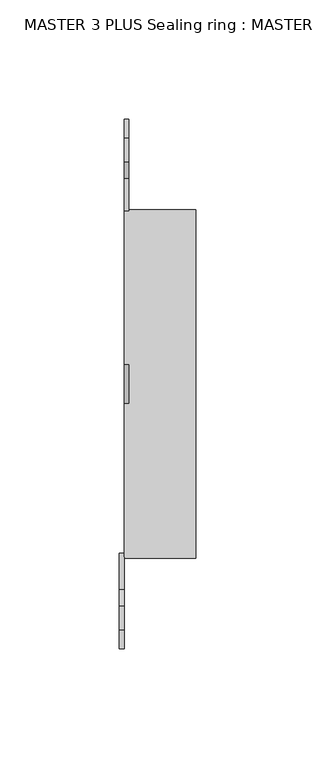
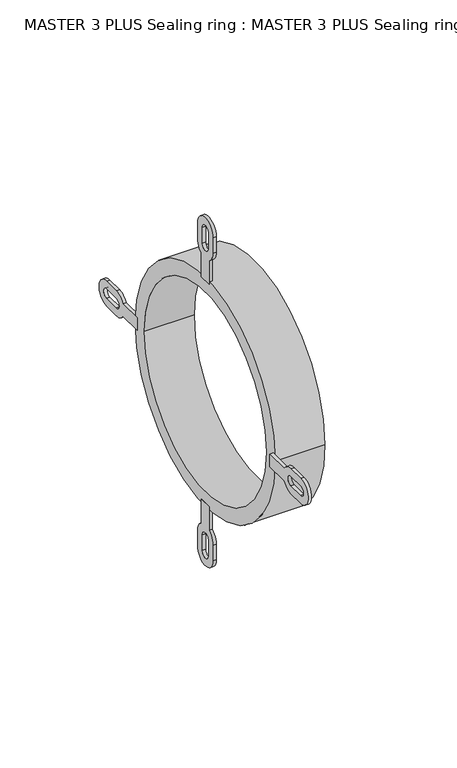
"""IFC4 building model written with IfcOpenShell, lengths in millimetres: pipe fitting geometry, MASTER 3 PLUS Sealing ring : MASTER 3 PLUS Sealing ring."""

from ifc_helpers import new_model, si_unit, point, frame, frame_2d, origin, origin_2d, place, context, project, spatial, polyline, circle_curve, trimmed, segment, composite_curve, outline, extrude, source, transform, mapped, element, save


def master_3_plus_sealing_ring_master_3_plus_sealing_ring_c2c44dfe(model_context):
    return source(origin(), model_context, "Body", "SweptSolid", [
        extrude(outline(composite_curve([segment(polyline([(-3.9877984, 71.0), (-3.9877984, 86.0647665)]), True, "CONTINUOUS"), segment(trimmed(circle_curve(frame_2d((0.0, 93.0)), 8.0), [point((-3.9877984, 86.0647665))], [point((-8.0, 93.0))], False, "CARTESIAN"), True, "CONTINUOUS"), segment(polyline([(-8.0, 93.0), (-8.0, 103.0)]), True, "CONTINUOUS"), segment(trimmed(circle_curve(frame_2d((0.0, 103.0)), 8.0), [point((-8.0, 103.0))], [point((8.0, 103.0))], False, "CARTESIAN"), True, "CONTINUOUS"), segment(polyline([(8.0, 103.0), (8.0, 93.0)]), True, "CONTINUOUS"), segment(trimmed(circle_curve(frame_2d((0.0, 93.0)), 8.0), [point((8.0, 93.0))], [point((3.9877984, 86.0647665))], False, "CARTESIAN"), True, "CONTINUOUS"), segment(polyline([(3.9877984, 86.0647665), (3.9877984, 71.0), (-3.9877984, 71.0)]), True, "CONTINUOUS")], self_intersect=False), holes=[composite_curve([segment(trimmed(circle_curve(frame_2d((0.0, 93.0)), 3.0), [point((-3.0, 93.0))], [point((3.0, 93.0))], True, "CARTESIAN"), True, "CONTINUOUS"), segment(polyline([(3.0, 93.0), (3.0, 103.0)]), True, "CONTINUOUS"), segment(trimmed(circle_curve(frame_2d((0.0, 103.0)), 3.0), [point((3.0, 103.0))], [point((-3.0, 103.0))], True, "CARTESIAN"), True, "CONTINUOUS"), segment(polyline([(-3.0, 103.0), (-3.0, 93.0)]), True, "CONTINUOUS")], self_intersect=False)]), frame((0.0, 0.0, 0.0), z_axis=(1.0, 0.0, 0.0), x_axis=(0.0, 1.0, 0.0)), (0.0, 0.0, 1.0), 2.0),
        extrude(outline(composite_curve([segment(polyline([(-3.9877984, -71.0), (3.9877984, -71.0), (3.9877984, -86.0647665)]), True, "CONTINUOUS"), segment(trimmed(circle_curve(frame_2d((0.0, -93.0)), 8.0), [point((3.9877984, -86.0647665))], [point((8.0, -93.0))], False, "CARTESIAN"), True, "CONTINUOUS"), segment(polyline([(8.0, -93.0), (8.0, -103.0)]), True, "CONTINUOUS"), segment(trimmed(circle_curve(frame_2d((0.0, -103.0)), 8.0), [point((8.0, -103.0))], [point((-8.0, -103.0))], False, "CARTESIAN"), True, "CONTINUOUS"), segment(polyline([(-8.0, -103.0), (-8.0, -93.0)]), True, "CONTINUOUS"), segment(trimmed(circle_curve(frame_2d((0.0, -93.0)), 8.0), [point((-8.0, -93.0))], [point((-3.9877984, -86.0647665))], False, "CARTESIAN"), True, "CONTINUOUS"), segment(polyline([(-3.9877984, -86.0647665), (-3.9877984, -71.0)]), True, "CONTINUOUS")], self_intersect=False), holes=[composite_curve([segment(polyline([(-3.0, -93.0), (-3.0, -103.0)]), True, "CONTINUOUS"), segment(trimmed(circle_curve(frame_2d((0.0, -103.0)), 3.0), [point((-3.0, -103.0))], [point((3.0, -103.0))], True, "CARTESIAN"), True, "CONTINUOUS"), segment(polyline([(3.0, -103.0), (3.0, -93.0)]), True, "CONTINUOUS"), segment(trimmed(circle_curve(frame_2d((0.0, -93.0)), 3.0), [point((3.0, -93.0))], [point((-3.0, -93.0))], True, "CARTESIAN"), True, "CONTINUOUS")], self_intersect=False)]), frame((0.0, 0.0, 0.0), z_axis=(1.0, 0.0, 0.0), x_axis=(0.0, 1.0, 0.0)), (0.0, 0.0, 1.0), 2.0),
        extrude(outline(composite_curve([segment(polyline([(-71.0, -3.9877984), (-86.0647665, -3.9877984)]), True, "CONTINUOUS"), segment(trimmed(circle_curve(frame_2d((-93.0, 0.0)), 8.0), [point((-86.0647665, -3.9877984))], [point((-93.0, -8.0))], False, "CARTESIAN"), True, "CONTINUOUS"), segment(polyline([(-93.0, -8.0), (-103.0, -8.0)]), True, "CONTINUOUS"), segment(trimmed(circle_curve(frame_2d((-103.0, 0.0)), 8.0), [point((-103.0, -8.0))], [point((-103.0, 8.0))], False, "CARTESIAN"), True, "CONTINUOUS"), segment(polyline([(-103.0, 8.0), (-93.0, 8.0)]), True, "CONTINUOUS"), segment(trimmed(circle_curve(frame_2d((-93.0, 0.0)), 8.0), [point((-93.0, 8.0))], [point((-86.0647665, 3.9877984))], False, "CARTESIAN"), True, "CONTINUOUS"), segment(polyline([(-86.0647665, 3.9877984), (-71.0, 3.9877984), (-71.0, -3.9877984)]), True, "CONTINUOUS")], self_intersect=False), holes=[composite_curve([segment(trimmed(circle_curve(frame_2d((-93.0, 0.0)), 3.0), [point((-93.0, -3.0))], [point((-93.0, 3.0))], True, "CARTESIAN"), True, "CONTINUOUS"), segment(polyline([(-93.0, 3.0), (-103.0, 3.0)]), True, "CONTINUOUS"), segment(trimmed(circle_curve(frame_2d((-103.0, 0.0)), 3.0), [point((-103.0, 3.0))], [point((-103.0, -3.0))], True, "CARTESIAN"), True, "CONTINUOUS"), segment(polyline([(-103.0, -3.0), (-93.0, -3.0)]), True, "CONTINUOUS")], self_intersect=False)]), frame((-2.0, 0.0, 0.0), z_axis=(1.0, 0.0, 0.0), x_axis=(0.0, 1.0, 0.0)), (0.0, 0.0, 1.0), 2.0),
        extrude(outline(composite_curve([segment(polyline([(71.0, -3.9877984), (71.0, 3.9877984), (86.0647665, 3.9877984)]), True, "CONTINUOUS"), segment(trimmed(circle_curve(frame_2d((93.0, 0.0)), 8.0), [point((86.0647665, 3.9877984))], [point((93.0, 8.0))], False, "CARTESIAN"), True, "CONTINUOUS"), segment(polyline([(93.0, 8.0), (103.0, 8.0)]), True, "CONTINUOUS"), segment(trimmed(circle_curve(frame_2d((103.0, 0.0)), 8.0), [point((103.0, 8.0))], [point((103.0, -8.0))], False, "CARTESIAN"), True, "CONTINUOUS"), segment(polyline([(103.0, -8.0), (93.0, -8.0)]), True, "CONTINUOUS"), segment(trimmed(circle_curve(frame_2d((93.0, 0.0)), 8.0), [point((93.0, -8.0))], [point((86.0647665, -3.9877984))], False, "CARTESIAN"), True, "CONTINUOUS"), segment(polyline([(86.0647665, -3.9877984), (71.0, -3.9877984)]), True, "CONTINUOUS")], self_intersect=False), holes=[composite_curve([segment(polyline([(93.0, -3.0), (103.0, -3.0)]), True, "CONTINUOUS"), segment(trimmed(circle_curve(frame_2d((103.0, 0.0)), 3.0), [point((103.0, -3.0))], [point((103.0, 3.0))], True, "CARTESIAN"), True, "CONTINUOUS"), segment(polyline([(103.0, 3.0), (93.0, 3.0)]), True, "CONTINUOUS"), segment(trimmed(circle_curve(frame_2d((93.0, 0.0)), 3.0), [point((93.0, 3.0))], [point((93.0, -3.0))], True, "CARTESIAN"), True, "CONTINUOUS")], self_intersect=False)]), frame((0.0, 0.0, 0.0), z_axis=(1.0, 0.0, 0.0), x_axis=(0.0, 1.0, 0.0)), (0.0, 0.0, 1.0), 2.0),
        extrude(outline(composite_curve([segment(trimmed(circle_curve(origin_2d(), 73.0), [point((-73.0, 0.0))], [point((73.0, 0.0))], False, "CARTESIAN"), True, "CONTINUOUS"), segment(trimmed(circle_curve(origin_2d(), 73.0), [point((73.0, 0.0))], [point((-73.0, 0.0))], False, "CARTESIAN"), True, "CONTINUOUS")], self_intersect=False), holes=[composite_curve([segment(trimmed(circle_curve(origin_2d(), 63.6), [point((-63.6, 0.0))], [point((63.6, 0.0))], True, "CARTESIAN"), True, "CONTINUOUS"), segment(trimmed(circle_curve(origin_2d(), 63.6), [point((63.6, 0.0))], [point((-63.6, 0.0))], True, "CARTESIAN"), True, "CONTINUOUS")], self_intersect=False)]), frame((0.0, 0.0, 0.0), z_axis=(1.0, 0.0, 0.0), x_axis=(0.0, 1.0, 0.0)), (0.0, 0.0, 1.0), 30.0),
    ])


if __name__ == "__main__":
    model = new_model("IFC4")
    model_context = context("Model", 3, world=origin())
    ifc_project = project(units=[si_unit("LENGTHUNIT", "METRE", prefix="MILLI")], contexts=[model_context])
    site = spatial("IfcSite", under=ifc_project)
    building = spatial("IfcBuilding", under=site)
    placement = place(None, origin())
    master_3_plus_sealing_ring_master_3_plus_sealing_ring_shape = master_3_plus_sealing_ring_master_3_plus_sealing_ring_c2c44dfe(model_context)
    element("IfcPipeFitting", 1, ObjectType="MASTER 3 PLUS Sealing ring : MASTER 3 PLUS Sealing ring", at=placement, inside=building, context=model_context, shape_type="MappedRepresentation", body=[
        mapped(master_3_plus_sealing_ring_master_3_plus_sealing_ring_shape, transform((0.0, 0.0, 0.0), x_axis=(1.0, 0.0, 0.0), y_axis=(0.0, 1.0, 0.0), z_axis=(0.0, 0.0, 1.0))),
    ])
    save(model, "model.ifc")
